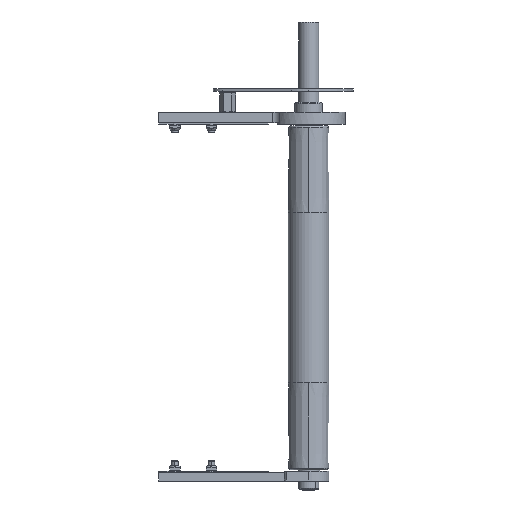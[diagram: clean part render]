
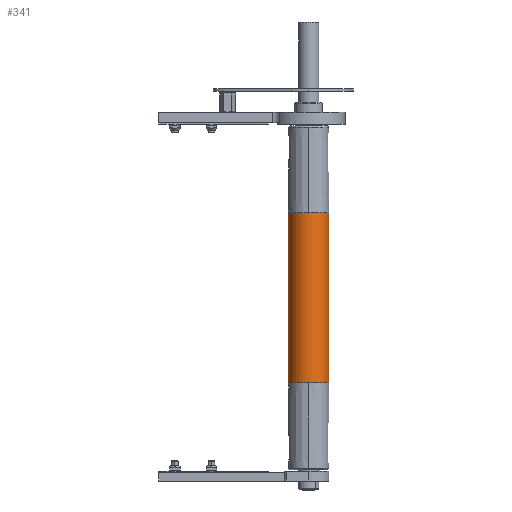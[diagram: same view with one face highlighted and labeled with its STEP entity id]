
A CAD part, front view. The second image highlights one B-rep face of the part: STEP entity #341.
In plain terms, the highlighted cylindrical face has radius 25 mm (diameter 50 mm), a partial arc.
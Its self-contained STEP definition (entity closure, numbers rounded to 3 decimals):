
#68 = DIRECTION ( 'NONE',  ( 0., 0., -1. ) ) ;
#79 = DIRECTION ( 'NONE',  ( 0., 1., 0. ) ) ;
#85 = CARTESIAN_POINT ( 'NONE',  ( 0., 0., -105. ) ) ;
#106 = DIRECTION ( 'NONE',  ( 0., 1., 0. ) ) ;
#107 = DIRECTION ( 'NONE',  ( 0., 0., -1. ) ) ;
#108 = CARTESIAN_POINT ( 'NONE',  ( 0., 0., 105. ) ) ;
#341 = ADVANCED_FACE ( 'NONE', ( #11967 ), #11962, .T. ) ;
#1155 = EDGE_CURVE ( 'NONE', #15490, #15385, #8200, .T. ) ;
#1156 = EDGE_CURVE ( 'NONE', #15381, #15375, #8201, .T. ) ;
#1198 = EDGE_CURVE ( 'NONE', #15469, #15375, #8107, .T. ) ;
#1255 = EDGE_CURVE ( 'NONE', #15433, #15469, #8002, .T. ) ;
#1285 = EDGE_CURVE ( 'NONE', #15385, #15381, #7962, .T. ) ;
#1296 = EDGE_CURVE ( 'NONE', #15490, #15433, #7947, .T. ) ;
#1455 = AXIS2_PLACEMENT_3D ( 'NONE', #18259, #18258, #18298 ) ;
#3116 = ORIENTED_EDGE ( 'NONE', *, *, #1155, .F. ) ;
#3117 = ORIENTED_EDGE ( 'NONE', *, *, #1285, .F. ) ;
#3118 = ORIENTED_EDGE ( 'NONE', *, *, #1156, .F. ) ;
#3130 = ORIENTED_EDGE ( 'NONE', *, *, #1255, .T. ) ;
#3131 = ORIENTED_EDGE ( 'NONE', *, *, #1296, .T. ) ;
#3153 = ORIENTED_EDGE ( 'NONE', *, *, #1198, .T. ) ;
#3495 = AXIS2_PLACEMENT_3D ( 'NONE', #12243, #12244, #12246 ) ;
#6707 = CARTESIAN_POINT ( 'NONE',  ( -25., 0., 210. ) ) ;
#6711 = DIRECTION ( 'NONE',  ( 0., 0., -1. ) ) ;
#7947 = CIRCLE ( 'NONE', #10460, 25. ) ;
#7962 = CIRCLE ( 'NONE', #12024, 25. ) ;
#8002 = CIRCLE ( 'NONE', #19009, 25. ) ;
#8103 = VECTOR ( 'NONE', #6711, 1000. ) ;
#8107 = LINE ( 'NONE', #6707, #8103 ) ;
#8192 = VECTOR ( 'NONE', #12240, 1000. ) ;
#8200 = LINE ( 'NONE', #12229, #8192 ) ;
#8201 = CIRCLE ( 'NONE', #3495, 25. ) ;
#9135 = CARTESIAN_POINT ( 'NONE',  ( -25., 0., -105. ) ) ;
#9141 = CARTESIAN_POINT ( 'NONE',  ( 0., -25., -105. ) ) ;
#9145 = CARTESIAN_POINT ( 'NONE',  ( 25., 0., -105. ) ) ;
#9193 = CARTESIAN_POINT ( 'NONE',  ( 0., -25., 105. ) ) ;
#9229 = CARTESIAN_POINT ( 'NONE',  ( -25., 0., 105. ) ) ;
#9250 = CARTESIAN_POINT ( 'NONE',  ( 25., 0., 105. ) ) ;
#10460 = AXIS2_PLACEMENT_3D ( 'NONE', #108, #107, #106 ) ;
#11962 = CYLINDRICAL_SURFACE ( 'NONE', #1455, 25. ) ;
#11967 = FACE_OUTER_BOUND ( 'NONE', #16902, .T. ) ;
#12024 = AXIS2_PLACEMENT_3D ( 'NONE', #85, #68, #79 ) ;
#12229 = CARTESIAN_POINT ( 'NONE',  ( 25., 0., 210. ) ) ;
#12240 = DIRECTION ( 'NONE',  ( 0., 0., -1. ) ) ;
#12243 = CARTESIAN_POINT ( 'NONE',  ( 0., 0., -105. ) ) ;
#12244 = DIRECTION ( 'NONE',  ( 0., 0., -1. ) ) ;
#12246 = DIRECTION ( 'NONE',  ( 0., 1., 0. ) ) ;
#15375 = VERTEX_POINT ( 'NONE', #9135 ) ;
#15381 = VERTEX_POINT ( 'NONE', #9141 ) ;
#15385 = VERTEX_POINT ( 'NONE', #9145 ) ;
#15433 = VERTEX_POINT ( 'NONE', #9193 ) ;
#15469 = VERTEX_POINT ( 'NONE', #9229 ) ;
#15490 = VERTEX_POINT ( 'NONE', #9250 ) ;
#16492 = DIRECTION ( 'NONE',  ( 0., 1., 0. ) ) ;
#16495 = CARTESIAN_POINT ( 'NONE',  ( 0., 0., 105. ) ) ;
#16585 = DIRECTION ( 'NONE',  ( 0., 0., -1. ) ) ;
#16902 = EDGE_LOOP ( 'NONE', ( #3131, #3130, #3153, #3118, #3117, #3116 ) ) ;
#18258 = DIRECTION ( 'NONE',  ( 0., 0., -1. ) ) ;
#18259 = CARTESIAN_POINT ( 'NONE',  ( 0., 0., 210. ) ) ;
#18298 = DIRECTION ( 'NONE',  ( 1., 0., 0. ) ) ;
#19009 = AXIS2_PLACEMENT_3D ( 'NONE', #16495, #16585, #16492 ) ;
